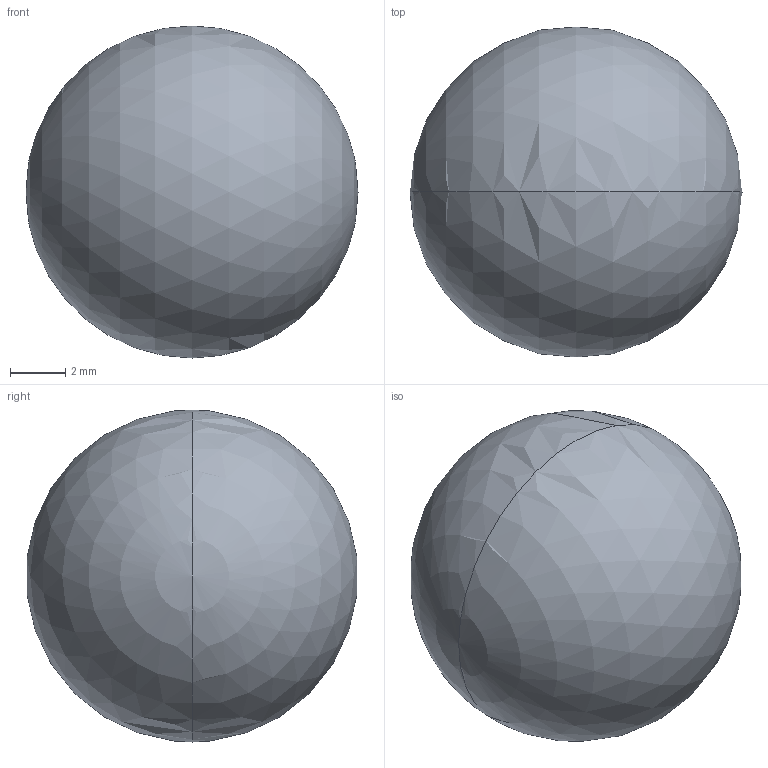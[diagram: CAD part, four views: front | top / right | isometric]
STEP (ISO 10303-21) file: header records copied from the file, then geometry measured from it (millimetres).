
FILE_DESCRIPTION((''),'2;1');
FILE_NAME('6MM_STEEL_BALL','2024-05-16T11:51:38',('qinghui.yi'),(''),'CREO PARAMETRIC BY PTC INC, 2019164','CREO PARAMETRIC BY PTC INC, 2019164','');
FILE_SCHEMA(('CONFIG_CONTROL_DESIGN','SHAPE_APPEARANCE_LAYERS_GROUPS'));
Length unit declared in the file: millimetre
Products named in the file (1): 6MM_STEEL_BALL
Bounding box: 12 x 11.92 x 12 mm (x, y, z)
Volume: 904.8 mm3; surface area: 452.4 mm2
Topology: 1 solids, 1 shells, 2 faces, 9 edges, 8 vertices
Faces by surface type: sphere 2
Entity records: 443 total; most frequent: COLOUR_RGB 312, DIRECTION 13, CARTESIAN_POINT 10, DRAUGHTING_PRE_DEFINED_COLOUR 8, AXIS2_PLACEMENT_3D 5, ORIENTED_EDGE 4, CURVE_STYLE 4, PRESENTATION_STYLE_ASSIGNMENT 4
